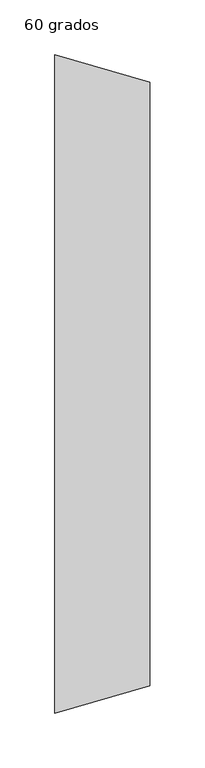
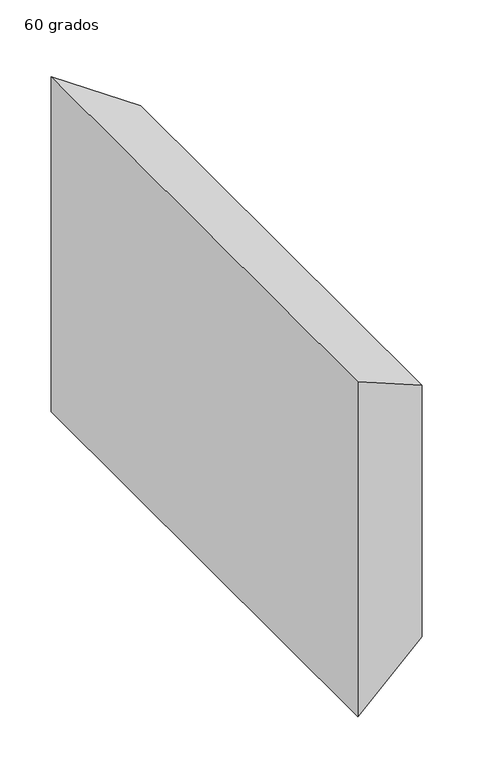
"""IFC4 building model written with IfcOpenShell, lengths in millimetres: duct fitting geometry, M_Transición rectangular - Ángulo : 60 grados."""

from ifc_helpers import new_model, si_unit, origin, place, context, project, spatial, faceted_brep, source, transform, mapped, element, save


def duct_fitting_60_grados_c42e0283(model_context):
    return source(origin(), model_context, "Body", "Brep", [
        faceted_brep([(86.6025279, -275.0, 150.0379183), (86.6025279, -275.0, -149.9620817), (86.6025279, 275.0, -149.9620817), (86.6025279, 275.0, 150.0379183), (0.0, -300.0, 200.0), (0.0, 300.0, 200.0), (0.0, 300.0, -200.0), (0.0, -300.0, -200.0)], [[[0, 1, 2, 3]], [[4, 5, 6, 7]], [[4, 7, 1, 0]], [[7, 6, 2, 1]], [[6, 5, 3, 2]], [[5, 4, 0, 3]]]),
    ])


if __name__ == "__main__":
    model = new_model("IFC4")
    model_context = context("Model", 3, world=origin())
    ifc_project = project(units=[si_unit("LENGTHUNIT", "METRE", prefix="MILLI")], contexts=[model_context])
    site = spatial("IfcSite", under=ifc_project)
    building = spatial("IfcBuilding", under=site)
    placement = place(None, origin())
    duct_fitting_60_grados_shape = duct_fitting_60_grados_c42e0283(model_context)
    element("IfcDuctFitting", 1, ObjectType="M_Transición rectangular - Ángulo : 60 grados", at=placement, inside=building, context=model_context, shape_type="MappedRepresentation", body=[
        mapped(duct_fitting_60_grados_shape, transform((0.0, 0.0, 0.0), x_axis=(1.0, 0.0, 0.0), y_axis=(0.0, 1.0, 0.0), z_axis=(0.0, 0.0, 1.0))),
    ])
    save(model, "model.ifc")
